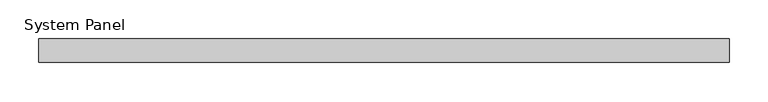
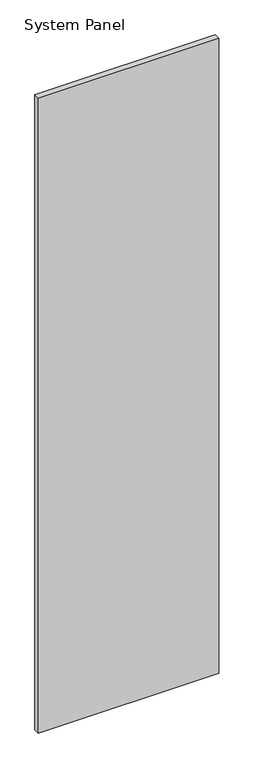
"""IFC4 building model written with IfcOpenShell, lengths in millimetres: plate geometry, System Panel : Panel_Glazed_Generic Showcase_30mm."""

from ifc_helpers import new_model, si_unit, origin, origin_with_axes, place, context, project, spatial, polyline, outline, extrude, source, transform, mapped, element, save


def system_panel_921365fd(model_context):
    return source(origin(), model_context, "Body", "SweptSolid", [
        extrude(outline(polyline([(443.75, -30.0), (-443.75, -30.0), (-443.75, 0.0), (443.75, 0.0), (443.75, -30.0)])), origin_with_axes(), (0.0, 0.0, 1.0), 3300.0),
    ])


if __name__ == "__main__":
    model = new_model("IFC4")
    model_context = context("Model", 3, world=origin())
    ifc_project = project(units=[si_unit("LENGTHUNIT", "METRE", prefix="MILLI")], contexts=[model_context])
    site = spatial("IfcSite", under=ifc_project)
    building = spatial("IfcBuilding", under=site)
    placement = place(None, origin())
    system_panel_shape = system_panel_921365fd(model_context)
    element("IfcPlate", 1, ObjectType="System Panel : Panel_Glazed_Generic Showcase_30mm", at=placement, inside=building, context=model_context, shape_type="MappedRepresentation", body=[
        mapped(system_panel_shape, transform((0.0, 0.0, 0.0), x_axis=(1.0, 0.0, 0.0), y_axis=(0.0, 1.0, 0.0), z_axis=(0.0, 0.0, 1.0))),
    ])
    save(model, "model.ifc")
